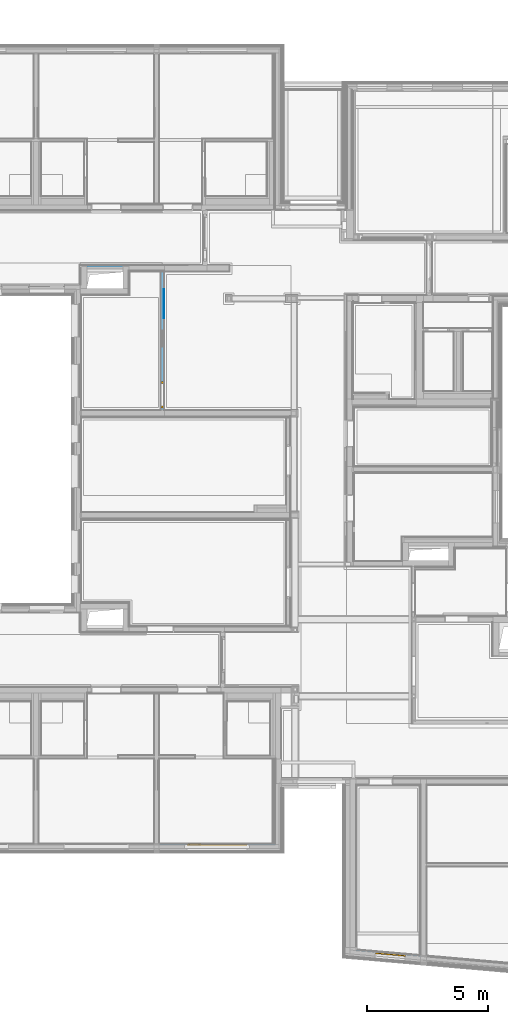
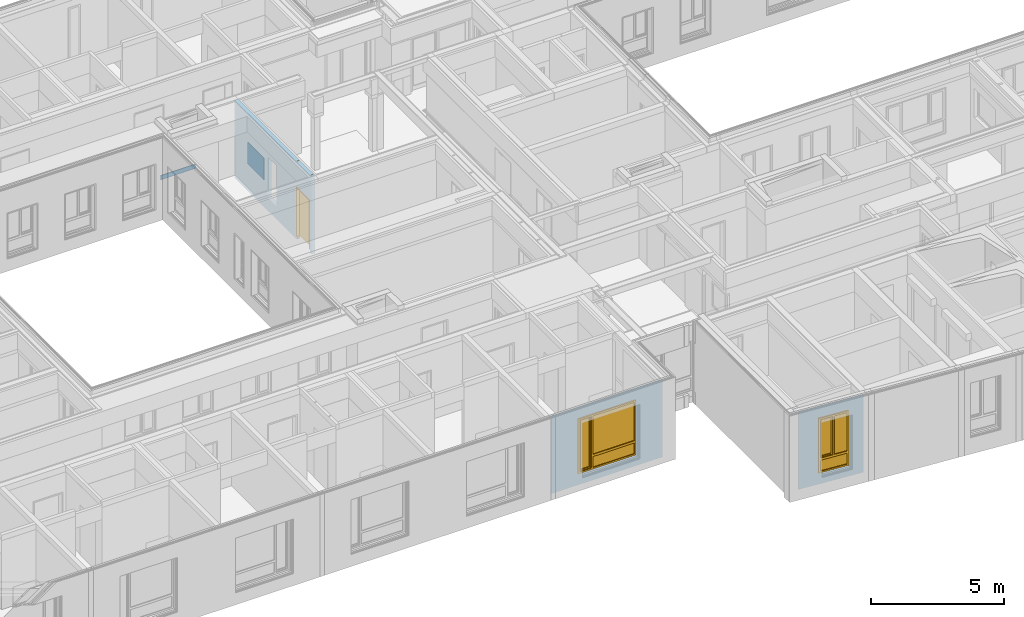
# One storey, part 78 of 222: 2 walls, 2 windows, 1 door, 4 openings, plus 3 elements that do not belong to this part.
"""IFC4 building model written with IfcOpenShell, lengths in metres."""

from ifc_helpers import new_model, entity, si_unit, converted_unit, derived_unit, frame, frame_2d, origin, origin_with_axes, place, context, subcontext, project, spatial, polyline, rectangle, outline, extrude, clip, bounded_halfspace, closed_shell, open_shell, faceted_brep, surface_model, source, transform, mapped, material, type_object, element, fill, save


model = new_model("IFC4")

# Units and contexts
model_context = context("Model", 3, precision=1e-05, world=origin())
body_context = subcontext(model_context, "Body", "Model", "MODEL_VIEW")
ifc_project = project(units=[si_unit("LENGTHUNIT", "METRE"), si_unit("AREAUNIT", "SQUARE_METRE"), si_unit("VOLUMEUNIT", "CUBIC_METRE"), si_unit("MASSUNIT", "GRAM", prefix="KILO"), converted_unit("PLANEANGLEUNIT", "DEGREE", entity("IfcPlaneAngleMeasure", 0.0174532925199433), si_unit("PLANEANGLEUNIT", "RADIAN"), dimensions=[0, 0, 0, 0, 0, 0, 0]), derived_unit("THERMALTRANSMITTANCEUNIT", [(si_unit("POWERUNIT", "WATT"), 1), (si_unit("THERMODYNAMICTEMPERATUREUNIT", "KELVIN"), -1), (si_unit("LENGTHUNIT", "METRE"), -2)]), derived_unit("VOLUMETRICFLOWRATEUNIT", [(si_unit("LENGTHUNIT", "METRE"), 3), (converted_unit("TIMEUNIT", "hour", entity("IfcTimeMeasure", 3600.0), si_unit("TIMEUNIT", "SECOND"), dimensions=[0, 0, 1, 0, 0, 0, 0]), -1), (si_unit("LENGTHUNIT", "METRE"), -1)])], contexts=[model_context])

# Site, building, storey
site_placement = place(None, origin())
site = spatial("IfcSite", under=ifc_project, at=site_placement, Name="Psychiatrie Neubau Wunstorf", CompositionType="ELEMENT")
building_placement = place(site_placement, origin())
building = spatial("IfcBuilding", under=site, at=building_placement, Name="Neubau H2 Stationsgebäude", CompositionType="ELEMENT")
storey_placement = place(building_placement, frame((0.0, 0.0, 3.6)))
storey = spatial("IfcBuildingStorey", under=building, at=storey_placement, Name="H2 Ebene +1", CompositionType="ELEMENT", Elevation=3.6)

# Wall, opening, window
ifc_material_1 = material(Name="WA-LB")
wall_1_placement = place(storey_placement, frame((34.925, -2.16399999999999, 0.0), z_axis=(0.0, 0.0, 1.0), x_axis=(-1.0, 9.42481556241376e-17, 0.0)))
wall_1 = element("IfcWall", 1, at=wall_1_placement, inside=storey, material=ifc_material_1, context=body_context, shape_type="SweptSolid", body=[
    extrude(rectangle(XDim=4.825, YDim=0.036, at=frame_2d((2.4125, 0.018), x_axis=(1.0, 0.0))), origin_with_axes(), (0.0, 0.0, 1.0), 3.55),
])
opening_1_placement = place(wall_1_placement, frame((1.175, 0.0, 0.55), z_axis=(0.0, 1.0, 0.0), x_axis=(0.0, 0.0, 1.0)))
opening_1 = element("IfcOpeningElement", 2, at=opening_1_placement, cuts=wall_1, Name="Fensteröffnung", ObjectType="Opening", context=body_context, shape_type="SweptSolid", body=[
    extrude(outline(polyline([(2.5, 2.5), (2.5, 0.0), (0.0, 0.0), (0.0, 2.5), (2.5, 2.5)])), origin_with_axes(), (0.0, 0.0, 1.0), 0.036),
])
shared_shape_1 = source(origin_with_axes(), body_context, "Body", "SurfaceModel", [
    surface_model("IfcShellBasedSurfaceModel", [(2.5, 0.0, 2.5), (2.5, 0.0, 0.0), (2.43, 0.0, 0.0), (2.43, 0.0, 2.5), (2.5, 0.0699999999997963, 0.0), (2.5, 0.0699999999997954, 2.5), (2.43, 0.0699999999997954, 2.5), (2.43, 0.0699999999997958, 0.0)], [closed_shell([[[0, 1, 2, 3]], [[4, 5, 6, 7]], [[1, 0, 5, 4]], [[2, 1, 4, 7]], [[3, 2, 7, 6]], [[0, 3, 6, 5]]], orient=[[False], [False], [False], [False], [False], [False]])]),
    surface_model("IfcShellBasedSurfaceModel", [(0.07, 0.0, 2.5), (0.07, 0.0, 0.0), (0.0, 0.0, 0.0), (0.0, 0.0, 2.5), (0.07, 0.0699999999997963, 0.0), (0.07, 0.0699999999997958, 2.5), (0.0, 0.0699999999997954, 2.5), (0.0, 0.0699999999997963, 0.0)], [closed_shell([[[0, 1, 2, 3]], [[4, 5, 6, 7]], [[1, 0, 5, 4]], [[2, 1, 4, 7]], [[3, 2, 7, 6]], [[0, 3, 6, 5]]], orient=[[False], [False], [False], [False], [False], [False]])]),
    surface_model("IfcShellBasedSurfaceModel", [(2.43, 0.0, 0.07), (2.43, 0.0, 0.0), (0.07, 0.0, 0.0), (0.07, 0.0, 0.07), (2.43, 0.0699999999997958, 0.0), (2.43, 0.0699999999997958, 0.07), (0.07, 0.0699999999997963, 0.07), (0.07, 0.0699999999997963, 0.0)], [closed_shell([[[0, 1, 2, 3]], [[4, 5, 6, 7]], [[1, 0, 5, 4]], [[2, 1, 4, 7]], [[3, 2, 7, 6]], [[0, 3, 6, 5]]], orient=[[False], [False], [False], [False], [False], [False]])]),
    surface_model("IfcShellBasedSurfaceModel", [(2.43, 0.0, 2.5), (2.43, 0.0, 2.43), (0.07, 0.0, 2.43), (0.07, 0.0, 2.5), (2.43, 0.0699999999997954, 2.43), (2.43, 0.0699999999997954, 2.5), (0.07, 0.0699999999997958, 2.5), (0.07, 0.0699999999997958, 2.43)], [closed_shell([[[0, 1, 2, 3]], [[4, 5, 6, 7]], [[1, 0, 5, 4]], [[2, 1, 4, 7]], [[3, 2, 7, 6]], [[0, 3, 6, 5]]], orient=[[False], [False], [False], [False], [False], [False]])]),
    surface_model("IfcShellBasedSurfaceModel", [(1.934285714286, 0.0, 2.43), (1.934285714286, 0.0, 0.07), (1.864285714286, 0.0, 0.07), (1.864285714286, 0.0, 2.43), (1.934285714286, 0.0699999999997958, 0.07), (1.934285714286, 0.0699999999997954, 2.43), (1.864285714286, 0.0699999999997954, 2.43), (1.864285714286, 0.0699999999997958, 0.07)], [closed_shell([[[0, 1, 2, 3]], [[4, 5, 6, 7]], [[1, 0, 5, 4]], [[2, 1, 4, 7]], [[3, 2, 7, 6]], [[0, 3, 6, 5]]], orient=[[False], [False], [False], [False], [False], [False]])]),
    surface_model("IfcShellBasedSurfaceModel", [(2.45, -0.0500000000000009, 2.45), (2.45, -0.0500000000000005, 0.05), (2.38, -0.0500000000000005, 0.05), (2.38, -0.0500000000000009, 2.45), (2.45, 0.0199999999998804, 0.05), (2.45, 0.0199999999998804, 2.45), (2.38, 0.0199999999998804, 2.45), (2.38, 0.0199999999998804, 0.05)], [closed_shell([[[0, 1, 2, 3]], [[4, 5, 6, 7]], [[1, 0, 5, 4]], [[2, 1, 4, 7]], [[3, 2, 7, 6]], [[0, 3, 6, 5]]], orient=[[False], [False], [False], [False], [False], [False]])]),
    surface_model("IfcShellBasedSurfaceModel", [(1.984285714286, -0.0500000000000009, 2.45), (1.984285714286, -0.0500000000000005, 0.05), (1.914285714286, -0.0500000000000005, 0.05), (1.914285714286, -0.0500000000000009, 2.45), (1.984285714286, 0.0199999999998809, 0.05), (1.984285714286, 0.0199999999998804, 2.45), (1.914285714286, 0.0199999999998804, 2.45), (1.914285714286, 0.0199999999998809, 0.05)], [closed_shell([[[0, 1, 2, 3]], [[4, 5, 6, 7]], [[1, 0, 5, 4]], [[2, 1, 4, 7]], [[3, 2, 7, 6]], [[0, 3, 6, 5]]], orient=[[False], [False], [False], [False], [False], [False]])]),
    surface_model("IfcShellBasedSurfaceModel", [(2.38, -0.0500000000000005, 0.12), (2.38, -0.0500000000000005, 0.05), (1.984285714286, -0.0500000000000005, 0.05), (1.984285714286, -0.0500000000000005, 0.12), (2.38, 0.0199999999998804, 0.05), (2.38, 0.0199999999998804, 0.12), (1.984285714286, 0.0199999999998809, 0.12), (1.984285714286, 0.0199999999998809, 0.05)], [closed_shell([[[0, 1, 2, 3]], [[4, 5, 6, 7]], [[1, 0, 5, 4]], [[2, 1, 4, 7]], [[3, 2, 7, 6]], [[0, 3, 6, 5]]], orient=[[False], [False], [False], [False], [False], [False]])]),
    surface_model("IfcShellBasedSurfaceModel", [(2.38, -0.0500000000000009, 2.45), (2.38, -0.0500000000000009, 2.38), (1.984285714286, -0.0500000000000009, 2.38), (1.984285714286, -0.0500000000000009, 2.45), (2.38, 0.0199999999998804, 2.38), (2.38, 0.0199999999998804, 2.45), (1.984285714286, 0.0199999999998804, 2.45), (1.984285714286, 0.0199999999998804, 2.38)], [closed_shell([[[0, 1, 2, 3]], [[4, 5, 6, 7]], [[1, 0, 5, 4]], [[2, 1, 4, 7]], [[3, 2, 7, 6]], [[0, 3, 6, 5]]], orient=[[False], [False], [False], [False], [False], [False]])]),
    surface_model("IfcShellBasedSurfaceModel", [(1.864285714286, 0.0, 0.67), (1.864285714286, 0.0, 0.57), (0.07, 0.0, 0.57), (0.07, 0.0, 0.67), (1.864285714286, 0.0699999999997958, 0.57), (1.864285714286, 0.0699999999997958, 0.67), (0.07, 0.0699999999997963, 0.67), (0.07, 0.0699999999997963, 0.57)], [closed_shell([[[0, 1, 2, 3]], [[4, 5, 6, 7]], [[1, 0, 5, 4]], [[2, 1, 4, 7]], [[3, 2, 7, 6]], [[0, 3, 6, 5]]], orient=[[False], [False], [False], [False], [False], [False]])]),
    surface_model("IfcShellBasedSurfaceModel", [(2.38, -0.01500000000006, 0.12), (1.984285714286, -0.01500000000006, 0.12), (1.984285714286, -0.01500000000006, 2.38), (2.38, -0.0150000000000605, 2.38)], [open_shell([[[0, 1, 2, 3]]], orient=[[False]])]),
    surface_model("IfcShellBasedSurfaceModel", [(1.864285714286, 0.0349999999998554, 0.07), (0.07, 0.0349999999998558, 0.07), (0.07, 0.0349999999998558, 0.57), (1.864285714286, 0.0349999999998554, 0.57)], [open_shell([[[0, 1, 2, 3]]], orient=[[False]])]),
    surface_model("IfcShellBasedSurfaceModel", [(1.864285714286, 0.0349999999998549, 0.67), (0.07, 0.0349999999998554, 0.67), (0.07, 0.0349999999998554, 2.43), (1.864285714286, 0.0349999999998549, 2.43)], [open_shell([[[0, 1, 2, 3]]], orient=[[False]])]),
])
window_1_placement = place(opening_1_placement, frame((0.0, 0.0, 0.03), z_axis=(1.0, 0.0, 0.0), x_axis=(0.0, 1.0, -8.7650784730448e-17)))
window_1 = element("IfcWindow", 3, at=window_1_placement, inside=storey, Name="Fenster", OverallHeight=2.5, OverallWidth=2.5, PartitioningType="USERDEFINED", PredefinedType="WINDOW", context=body_context, shape_type="MappedRepresentation", body=[
    mapped(shared_shape_1, transform((0.0, 0.0, 0.0), x_axis=(1.0, 0.0, 0.0), y_axis=(0.0, 1.0, 0.0), z_axis=(0.0, 0.0, 1.0), scale=1.0)),
])
fill(opening_1, window_1)

ifc_material_2 = material(Name="WA-LB")
wall_2_placement = place(storey_placement, frame((40.95, -6.79162615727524, 0.0), z_axis=(0.0, 0.0, 1.0), x_axis=(-0.996173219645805, 0.087400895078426, 0.0)))
wall_2 = element("IfcWall", 4, at=wall_2_placement, inside=storey, material=ifc_material_2, context=body_context, shape_type="SweptSolid", body=[
    extrude(outline(polyline([(-2.65662397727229, -0.269360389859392), (0.0236327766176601, -0.269360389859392), (0.0204742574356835, -0.233360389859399), (-2.65978249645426, -0.233360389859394), (-2.65662397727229, -0.269360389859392)])), frame((2.65662397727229, 0.269360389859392, 0.0), z_axis=(0.0, 0.0, 1.0), x_axis=(1.0, 0.0, 0.0)), (0.0, 0.0, 1.0), 3.55),
])
opening_2_placement = place(wall_2_placement, frame((1.877265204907, 0.0359999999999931, 0.55), z_axis=(7.57912251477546e-14, -1.0, 0.0), x_axis=(0.0, 0.0, 1.0)))
opening_2 = element("IfcOpeningElement", 5, at=opening_2_placement, cuts=wall_2, Name="Fensteröffnung", ObjectType="Opening", context=body_context, shape_type="SweptSolid", body=[
    extrude(outline(polyline([(2.5, 1.24999999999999), (2.5, 0.0), (0.0, 0.0), (0.0, 1.24999999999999), (2.5, 1.24999999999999)])), origin_with_axes(), (0.0, 0.0, 1.0), 0.035999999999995),
])
shared_shape_2 = source(origin_with_axes(), body_context, "Body", "SurfaceModel", [
    surface_model("IfcShellBasedSurfaceModel", [(1.25000000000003, 0.0, 2.5), (1.25000000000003, 0.0, 0.0), (1.18000000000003, 0.0, 0.0), (1.18000000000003, 0.0, 2.5), (1.25000000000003, 0.0700000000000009, 0.0), (1.25000000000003, 0.07, 2.5), (1.18000000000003, 0.07, 2.5), (1.18000000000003, 0.07, 0.0)], [closed_shell([[[0, 1, 2, 3]], [[4, 5, 6, 7]], [[1, 0, 5, 4]], [[2, 1, 4, 7]], [[3, 2, 7, 6]], [[0, 3, 6, 5]]], orient=[[False], [False], [False], [False], [False], [False]])]),
    surface_model("IfcShellBasedSurfaceModel", [(0.0700000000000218, 0.0, 2.5), (0.0700000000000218, 0.0, 0.0), (0.0, 0.0, 0.0), (0.0, 0.0, 2.5), (0.0700000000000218, 0.0699999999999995, 0.0), (0.0700000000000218, 0.0699999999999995, 2.5), (0.0, 0.0699999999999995, 2.5), (0.0, 0.0699999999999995, 0.0)], [closed_shell([[[0, 1, 2, 3]], [[4, 5, 6, 7]], [[1, 0, 5, 4]], [[2, 1, 4, 7]], [[3, 2, 7, 6]], [[0, 3, 6, 5]]], orient=[[False], [False], [False], [False], [False], [False]])]),
    surface_model("IfcShellBasedSurfaceModel", [(1.18000000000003, 0.0, 0.07), (1.18000000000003, 0.0, 0.0), (0.0700000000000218, 0.0, 0.0), (0.0700000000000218, 0.0, 0.07), (1.18000000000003, 0.07, 0.0), (1.18000000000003, 0.07, 0.07), (0.0700000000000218, 0.0699999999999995, 0.07), (0.0700000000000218, 0.0699999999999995, 0.0)], [closed_shell([[[0, 1, 2, 3]], [[4, 5, 6, 7]], [[1, 0, 5, 4]], [[2, 1, 4, 7]], [[3, 2, 7, 6]], [[0, 3, 6, 5]]], orient=[[False], [False], [False], [False], [False], [False]])]),
    surface_model("IfcShellBasedSurfaceModel", [(1.18000000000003, 0.0, 2.5), (1.18000000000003, 0.0, 2.43), (0.0700000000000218, 0.0, 2.43), (0.0700000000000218, 0.0, 2.5), (1.18000000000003, 0.07, 2.43), (1.18000000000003, 0.07, 2.5), (0.0700000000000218, 0.0699999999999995, 2.5), (0.0700000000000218, 0.0699999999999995, 2.43)], [closed_shell([[[0, 1, 2, 3]], [[4, 5, 6, 7]], [[1, 0, 5, 4]], [[2, 1, 4, 7]], [[3, 2, 7, 6]], [[0, 3, 6, 5]]], orient=[[False], [False], [False], [False], [False], [False]])]),
    surface_model("IfcShellBasedSurfaceModel", [(1.18000000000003, 0.0, 0.67), (1.18000000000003, 0.0, 0.57), (0.0700000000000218, 0.0, 0.57), (0.0700000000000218, 0.0, 0.67), (1.18000000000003, 0.07, 0.57), (1.18000000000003, 0.07, 0.67), (0.0700000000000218, 0.0699999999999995, 0.67), (0.0700000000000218, 0.0699999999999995, 0.57)], [closed_shell([[[0, 1, 2, 3]], [[4, 5, 6, 7]], [[1, 0, 5, 4]], [[2, 1, 4, 7]], [[3, 2, 7, 6]], [[0, 3, 6, 5]]], orient=[[False], [False], [False], [False], [False], [False]])]),
    surface_model("IfcShellBasedSurfaceModel", [(1.18000000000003, 0.0350000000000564, 0.07), (0.0700000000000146, 0.0350000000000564, 0.07), (0.0700000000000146, 0.0350000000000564, 0.57), (1.18000000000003, 0.0350000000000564, 0.57)], [open_shell([[[0, 1, 2, 3]]], orient=[[False]])]),
    surface_model("IfcShellBasedSurfaceModel", [(0.660000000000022, 0.0, 2.43), (0.660000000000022, 0.0, 0.67), (0.590000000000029, 0.0, 0.67), (0.590000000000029, 0.0, 2.43), (0.660000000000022, 0.0699999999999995, 0.67), (0.660000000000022, 0.0699999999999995, 2.43), (0.590000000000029, 0.07, 2.43), (0.590000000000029, 0.0700000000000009, 0.67)], [closed_shell([[[0, 1, 2, 3]], [[4, 5, 6, 7]], [[1, 0, 5, 4]], [[2, 1, 4, 7]], [[3, 2, 7, 6]], [[0, 3, 6, 5]]], orient=[[False], [False], [False], [False], [False], [False]])]),
    surface_model("IfcShellBasedSurfaceModel", [(1.20000000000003, -0.0499999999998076, 2.45), (1.20000000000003, -0.0499999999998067, 0.65), (1.13000000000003, -0.0499999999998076, 0.65), (1.13000000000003, -0.0499999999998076, 2.45), (1.20000000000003, 0.0200000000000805, 0.65), (1.20000000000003, 0.0200000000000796, 2.45), (1.13000000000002, 0.0200000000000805, 2.45), (1.13000000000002, 0.0200000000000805, 0.65)], [closed_shell([[[0, 1, 2, 3]], [[4, 5, 6, 7]], [[1, 0, 5, 4]], [[2, 1, 4, 7]], [[3, 2, 7, 6]], [[0, 3, 6, 5]]], orient=[[False], [False], [False], [False], [False], [False]])]),
    surface_model("IfcShellBasedSurfaceModel", [(0.710000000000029, -0.0499999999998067, 2.45), (0.710000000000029, -0.0499999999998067, 0.65), (0.640000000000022, -0.0499999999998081, 0.65), (0.640000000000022, -0.0499999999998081, 2.45), (0.710000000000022, 0.02000000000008, 0.65), (0.710000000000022, 0.02000000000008, 2.45), (0.640000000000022, 0.02000000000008, 2.45), (0.640000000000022, 0.02000000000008, 0.65)], [closed_shell([[[0, 1, 2, 3]], [[4, 5, 6, 7]], [[1, 0, 5, 4]], [[2, 1, 4, 7]], [[3, 2, 7, 6]], [[0, 3, 6, 5]]], orient=[[False], [False], [False], [False], [False], [False]])]),
    surface_model("IfcShellBasedSurfaceModel", [(1.13000000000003, -0.0499999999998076, 0.72), (1.13000000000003, -0.0499999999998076, 0.65), (0.710000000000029, -0.0499999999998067, 0.65), (0.710000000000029, -0.0499999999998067, 0.72), (1.13000000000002, 0.0200000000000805, 0.65), (1.13000000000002, 0.0200000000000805, 0.72), (0.710000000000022, 0.02000000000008, 0.72), (0.710000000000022, 0.02000000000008, 0.65)], [closed_shell([[[0, 1, 2, 3]], [[4, 5, 6, 7]], [[1, 0, 5, 4]], [[2, 1, 4, 7]], [[3, 2, 7, 6]], [[0, 3, 6, 5]]], orient=[[False], [False], [False], [False], [False], [False]])]),
    surface_model("IfcShellBasedSurfaceModel", [(1.13000000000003, -0.0499999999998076, 2.45), (1.13000000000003, -0.0499999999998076, 2.38), (0.710000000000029, -0.0499999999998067, 2.38), (0.710000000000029, -0.0499999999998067, 2.45), (1.13000000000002, 0.0200000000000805, 2.38), (1.13000000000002, 0.0200000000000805, 2.45), (0.710000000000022, 0.02000000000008, 2.45), (0.710000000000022, 0.02000000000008, 2.38)], [closed_shell([[[0, 1, 2, 3]], [[4, 5, 6, 7]], [[1, 0, 5, 4]], [[2, 1, 4, 7]], [[3, 2, 7, 6]], [[0, 3, 6, 5]]], orient=[[False], [False], [False], [False], [False], [False]])]),
    surface_model("IfcShellBasedSurfaceModel", [(0.590000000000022, 0.0350000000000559, 0.67), (0.0700000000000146, 0.0350000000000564, 0.67), (0.0700000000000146, 0.0350000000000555, 2.43), (0.590000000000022, 0.0350000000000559, 2.43)], [open_shell([[[0, 1, 2, 3]]], orient=[[False]])]),
    surface_model("IfcShellBasedSurfaceModel", [(1.13000000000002, -0.0149999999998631, 0.72), (0.710000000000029, -0.0149999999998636, 0.72), (0.710000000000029, -0.0149999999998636, 2.38), (1.13000000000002, -0.0149999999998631, 2.38)], [open_shell([[[0, 1, 2, 3]]], orient=[[False]])]),
])
window_2_placement = place(opening_2_placement, frame((0.0, 1.24999999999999, 0.0059999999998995), z_axis=(1.0, 0.0, 0.0), x_axis=(0.0, -1.0, 7.77850006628e-14)))
window_2 = element("IfcWindow", 6, at=window_2_placement, inside=storey, Name="Fenster", OverallHeight=2.5, OverallWidth=1.25, PartitioningType="USERDEFINED", PredefinedType="WINDOW", context=body_context, shape_type="MappedRepresentation", body=[
    mapped(shared_shape_2, transform((0.0, 0.0, 0.0), x_axis=(1.0, 0.0, 0.0), y_axis=(0.0, 1.0, 0.0), z_axis=(0.0, 0.0, 1.0), scale=1.0)),
])
fill(opening_2, window_2)

# Walls
wall_3_placement = place(storey_placement, frame((27.1, 21.811, 0.85)))
element("IfcWall", 7, at=wall_3_placement, inside=storey, Name="WV 1.1", context=body_context, shape_type="Brep", body=[
    faceted_brep([(0.0, 0.025, 0.0), (0.0, 0.0, 0.0), (1.5, 0.0, 0.0), (1.5, 0.025, 0.0), (0.0, 0.0, 0.2), (0.0, 0.025, 0.2), (1.5, 0.025, 0.2), (1.5, 0.0, 0.2)], [[[0, 1, 2, 3]], [[4, 5, 6, 7]], [[1, 0, 5, 4]], [[2, 1, 4, 7]], [[3, 2, 7, 6]], [[0, 3, 6, 5]]], orient=[[False], [False], [False], [False], [False], [False]]),
])
wall_4_placement = place(storey_placement, frame((30.2918490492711, 19.634, 1.05)))
element("IfcWall", 8, at=wall_4_placement, inside=storey, Name="WV 1.1", context=body_context, shape_type="Brep", body=[
    faceted_brep([(0.025, 1.2, 0.0), (0.0, 1.2, 0.0), (0.0, 0.0, 0.0), (0.025, 0.0, 0.0), (0.0, 1.2, 1.0), (0.025, 1.2, 1.0), (0.025, 0.0, 1.0), (0.0, 0.0, 1.0)], [[[0, 1, 2, 3]], [[4, 5, 6, 7]], [[1, 0, 5, 4]], [[2, 1, 4, 7]], [[3, 2, 7, 6]], [[0, 3, 6, 5]]], orient=[[False], [False], [False], [False], [False], [False]]),
])

# Wall, openings, door
ifc_material_3 = material(Name="WI-LB")
wall_5_placement = place(storey_placement, frame((30.3168490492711, 15.8324990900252, 0.0), z_axis=(0.0, 0.0, 1.0), x_axis=(0.0, 1.0, 0.0)))
wall_5 = element("IfcWall", 9, at=wall_5_placement, inside=storey, material=ifc_material_3, context=body_context, shape_type="Clipping", body=[
    clip(extrude(rectangle(XDim=5.77300090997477, YDim=0.15, at=frame_2d((2.88650045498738, 0.075), x_axis=(1.0, 0.0))), origin_with_axes(), (0.0, 0.0, 1.0), 3.55), bounded_halfspace(frame((5.75150090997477, 0.075, 2.9), z_axis=(0.0, 0.0, 1.0), x_axis=(0.0, -1.0, 0.0)), True, origin_with_axes(), polyline([(5.73150090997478, 0.15), (5.73150090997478, 0.0), (5.77150090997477, 0.0), (5.77150090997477, 0.15), (5.73150090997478, 0.15)]))),
])
opening_3_placement = place(wall_5_placement, frame((2.6325404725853, 0.0, 0.59), z_axis=(0.0, 1.0, 0.0), x_axis=(0.0, 0.0, 1.0)))
element("IfcOpeningElement", 10, at=opening_3_placement, cuts=wall_5, Name="Fensteröffnung", ObjectType="Opening", context=body_context, shape_type="SweptSolid", body=[
    extrude(outline(polyline([(1.88, 0.64994245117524), (1.88, 0.0), (0.0, 0.0), (0.0, 0.64994245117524), (1.88, 0.64994245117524)])), origin_with_axes(), (0.0, 0.0, 1.0), 0.15),
])
opening_4_placement = place(wall_5_placement, frame((0.12500961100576, 0.0, 0.0), z_axis=(0.0, 1.0, 0.0), x_axis=(0.0, 0.0, 1.0)))
opening_4 = element("IfcOpeningElement", 11, at=opening_4_placement, cuts=wall_5, Name="Türöffnung", ObjectType="Opening", context=body_context, shape_type="SweptSolid", body=[
    extrude(outline(polyline([(2.41, 1.01), (2.41, 0.0), (0.0, 0.0), (0.0, 1.01), (2.41, 1.01)])), origin_with_axes(), (0.0, 0.0, 1.0), 0.15),
])
ifc_material_4 = material(Name="TI-1F-UZ-ZK")
door_type = type_object("IfcDoorType", Name="SMT", OperationType="SINGLE_SWING_RIGHT", ParameterTakesPrecedence=False, PredefinedType="DOOR")
shared_shape_3 = source(origin_with_axes(), body_context, "Body", "Brep", [
    faceted_brep([(-0.0399999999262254, 0.0249999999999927, 0.0), (0.0, 0.0249999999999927, 0.0), (0.0, 0.124999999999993, 0.0), (-0.0399999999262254, 0.124999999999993, 0.0), (-0.0399999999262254, 0.124999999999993, 3.55), (0.0, 0.124999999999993, 3.55), (0.0, 0.0249999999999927, 3.55), (-0.0399999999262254, 0.0249999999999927, 3.55)], [[[0, 1, 2, 3]], [[4, 5, 6, 7]], [[3, 4, 7, 0]], [[2, 5, 4, 3]], [[1, 6, 5, 2]], [[0, 7, 6, 1]]], orient=[[False], [False], [False], [False], [False], [False]]),
    faceted_brep([(1.01000000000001, 0.0249999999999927, 0.0), (1.04999999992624, 0.0249999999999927, 0.0), (1.04999999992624, 0.124999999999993, 0.0), (1.01000000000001, 0.124999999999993, 0.0), (1.01000000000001, 0.124999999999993, 3.55), (1.04999999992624, 0.124999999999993, 3.55), (1.04999999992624, 0.0249999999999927, 3.55), (1.01000000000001, 0.0249999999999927, 3.55)], [[[0, 1, 2, 3]], [[4, 5, 6, 7]], [[3, 4, 7, 0]], [[2, 5, 4, 3]], [[1, 6, 5, 2]], [[0, 7, 6, 1]]], orient=[[False], [False], [False], [False], [False], [False]]),
    faceted_brep([(0.0, 0.0249999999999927, 2.41), (1.01000000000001, 0.0249999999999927, 2.41), (1.01000000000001, 0.124999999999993, 2.41), (0.0, 0.124999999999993, 2.41), (0.0, 0.124999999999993, 2.45), (1.01000000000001, 0.124999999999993, 2.45), (1.01000000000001, 0.0249999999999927, 2.45), (0.0, 0.0249999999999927, 2.45)], [[[0, 1, 2, 3]], [[4, 5, 6, 7]], [[3, 4, 7, 0]], [[2, 5, 4, 3]], [[1, 6, 5, 2]], [[0, 7, 6, 1]]], orient=[[False], [False], [False], [False], [False], [False]]),
])
shared_shape_4 = source(origin_with_axes(), body_context, "Body", "Brep", [
    faceted_brep([(1.01, -0.0150000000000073, 2.41), (1.01, -0.0150000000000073, 0.15), (0.970000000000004, -0.0150000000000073, 0.15), (0.970000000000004, -0.0150000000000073, 2.41), (1.01, 0.164999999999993, 0.15), (1.01, 0.164999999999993, 2.41), (0.970000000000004, 0.164999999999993, 2.41), (0.970000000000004, 0.164999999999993, 0.15)], [[[0, 1, 2, 3]], [[4, 5, 6, 7]], [[1, 0, 5, 4]], [[2, 1, 4, 7]], [[3, 2, 7, 6]], [[0, 3, 6, 5]]], orient=[[False], [False], [False], [False], [False], [False]]),
    faceted_brep([(1.01, -0.0150000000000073, 2.425), (1.025, -0.0150000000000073, 2.425), (1.025, -0.0150000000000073, 0.15), (1.01, -0.0150000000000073, 0.15), (1.01, 0.0, 0.15), (1.025, 0.0, 0.15), (1.025, 0.0, 2.425), (1.01, 0.0, 2.425)], [[[0, 1, 2, 3]], [[4, 5, 6, 7]], [[3, 4, 7, 0]], [[2, 5, 4, 3]], [[1, 6, 5, 2]], [[0, 7, 6, 1]]], orient=[[False], [False], [False], [False], [False], [False]]),
    faceted_brep([(1.01, 0.149999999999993, 2.425), (1.025, 0.149999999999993, 2.425), (1.025, 0.149999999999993, 0.15), (1.01, 0.149999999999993, 0.15), (1.01, 0.164999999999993, 0.15), (1.025, 0.164999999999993, 0.15), (1.025, 0.164999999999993, 2.425), (1.01, 0.164999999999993, 2.425)], [[[0, 1, 2, 3]], [[4, 5, 6, 7]], [[3, 4, 7, 0]], [[2, 5, 4, 3]], [[1, 6, 5, 2]], [[0, 7, 6, 1]]], orient=[[False], [False], [False], [False], [False], [False]]),
    faceted_brep([(0.0400000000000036, -0.0150000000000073, 2.41), (0.0400000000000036, -0.0150000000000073, 0.15), (0.0, -0.0150000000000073, 0.15), (0.0, -0.0150000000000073, 2.41), (0.0400000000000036, 0.164999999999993, 0.15), (0.0400000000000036, 0.164999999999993, 2.41), (0.0, 0.164999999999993, 2.41), (0.0, 0.164999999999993, 0.15)], [[[0, 1, 2, 3]], [[4, 5, 6, 7]], [[1, 0, 5, 4]], [[2, 1, 4, 7]], [[3, 2, 7, 6]], [[0, 3, 6, 5]]], orient=[[False], [False], [False], [False], [False], [False]]),
    faceted_brep([(0.0, -0.0150000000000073, 2.425), (0.0, -0.0150000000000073, 0.15), (-0.0149999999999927, -0.0150000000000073, 0.15), (-0.0149999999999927, -0.0150000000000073, 2.425), (0.0, 0.0, 0.15), (0.0, 0.0, 2.425), (-0.0149999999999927, 0.0, 2.425), (-0.0149999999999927, 0.0, 0.15)], [[[0, 1, 2, 3]], [[4, 5, 6, 7]], [[1, 0, 5, 4]], [[2, 1, 4, 7]], [[3, 2, 7, 6]], [[0, 3, 6, 5]]], orient=[[False], [False], [False], [False], [False], [False]]),
    faceted_brep([(0.0, 0.149999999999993, 2.425), (0.0, 0.149999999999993, 0.15), (-0.0149999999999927, 0.149999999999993, 0.15), (-0.0149999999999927, 0.149999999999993, 2.425), (0.0, 0.164999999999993, 0.15), (0.0, 0.164999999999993, 2.425), (-0.0149999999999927, 0.164999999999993, 2.425), (-0.0149999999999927, 0.164999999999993, 0.15)], [[[0, 1, 2, 3]], [[4, 5, 6, 7]], [[1, 0, 5, 4]], [[2, 1, 4, 7]], [[3, 2, 7, 6]], [[0, 3, 6, 5]]], orient=[[False], [False], [False], [False], [False], [False]]),
    faceted_brep([(0.970000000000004, -0.0150000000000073, 2.41), (0.970000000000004, -0.0150000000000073, 2.37), (0.0400000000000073, -0.0150000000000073, 2.37), (0.0400000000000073, -0.0150000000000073, 2.41), (0.970000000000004, 0.164999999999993, 2.37), (0.970000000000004, 0.164999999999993, 2.41), (0.0400000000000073, 0.164999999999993, 2.41), (0.0400000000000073, 0.164999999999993, 2.37)], [[[0, 1, 2, 3]], [[4, 5, 6, 7]], [[1, 0, 5, 4]], [[2, 1, 4, 7]], [[3, 2, 7, 6]], [[0, 3, 6, 5]]], orient=[[False], [False], [False], [False], [False], [False]]),
    faceted_brep([(1.01, -0.0150000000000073, 2.425), (1.01, -0.0150000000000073, 2.41), (0.0, -0.0150000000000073, 2.41), (0.0, -0.0150000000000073, 2.425), (1.01, 0.0, 2.41), (1.01, 0.0, 2.425), (0.0, 0.0, 2.425), (0.0, 0.0, 2.41)], [[[0, 1, 2, 3]], [[4, 5, 6, 7]], [[1, 0, 5, 4]], [[2, 1, 4, 7]], [[3, 2, 7, 6]], [[0, 3, 6, 5]]], orient=[[False], [False], [False], [False], [False], [False]]),
    faceted_brep([(1.01, 0.149999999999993, 2.425), (1.01, 0.149999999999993, 2.41), (0.0, 0.149999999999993, 2.41), (0.0, 0.149999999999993, 2.425), (1.01, 0.164999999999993, 2.41), (1.01, 0.164999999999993, 2.425), (0.0, 0.164999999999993, 2.425), (0.0, 0.164999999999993, 2.41)], [[[0, 1, 2, 3]], [[4, 5, 6, 7]], [[1, 0, 5, 4]], [[2, 1, 4, 7]], [[3, 2, 7, 6]], [[0, 3, 6, 5]]], orient=[[False], [False], [False], [False], [False], [False]]),
    faceted_brep([(0.985000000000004, 0.115999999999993, 2.385), (0.985000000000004, 0.115999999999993, 0.15), (0.0250000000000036, 0.115999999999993, 0.15), (0.0250000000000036, 0.115999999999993, 2.385), (0.985000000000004, 0.165999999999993, 0.15), (0.985000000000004, 0.165999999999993, 2.385), (0.0250000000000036, 0.165999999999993, 2.385), (0.0250000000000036, 0.165999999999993, 0.15)], [[[0, 1, 2, 3]], [[4, 5, 6, 7]], [[1, 0, 5, 4]], [[2, 1, 4, 7]], [[3, 2, 7, 6]], [[0, 3, 6, 5]]], orient=[[False], [False], [False], [False], [False], [False]]),
])
door_placement = place(opening_4_placement, frame((0.0, 1.01, 0.15), z_axis=(1.0, 0.0, 0.0), x_axis=(0.0, -1.0, 0.0)))
door = element("IfcDoor", 12, at=door_placement, inside=storey, type_object=door_type, material=ifc_material_4, Name="SMT", OverallHeight=2.41, OverallWidth=1.01, context=body_context, shape_type="MappedRepresentation", body=[
    mapped(shared_shape_3, transform((0.0, 0.0, 0.0), x_axis=(1.0, 0.0, 0.0), y_axis=(0.0, 1.0, 0.0), z_axis=(0.0, 0.0, 1.0), scale=1.0)),
    mapped(shared_shape_4, transform((0.0, 0.0, 0.0), x_axis=(1.0, 0.0, 0.0), y_axis=(0.0, 1.0, 0.0), z_axis=(0.0, 0.0, 1.0), scale=1.0)),
])
fill(opening_4, door)

save(model, "model.ifc")
